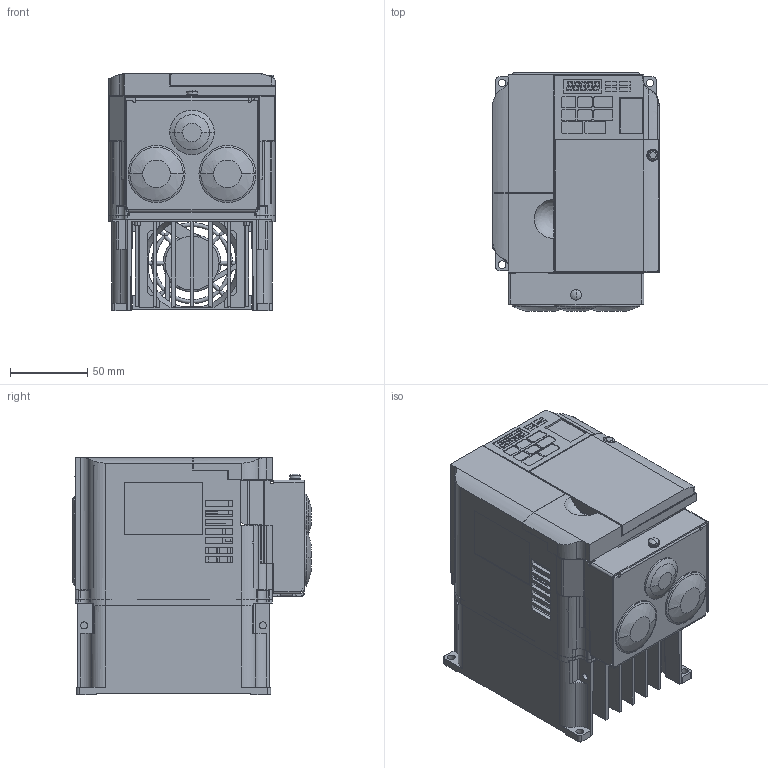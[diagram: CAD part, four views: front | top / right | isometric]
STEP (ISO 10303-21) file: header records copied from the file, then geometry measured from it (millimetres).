
FILE_DESCRIPTION((''),'2;1');
FILE_NAME('VU4A0005FAA_ASM','2009-08-19T',('jeffm'),(''),'PRO/ENGINEER BY PARAMETRIC TECHNOLOGY CORPORATION, 2007390','PRO/ENGINEER BY PARAMETRIC TECHNOLOGY CORPORATION, 2007390','');
FILE_SCHEMA(('CONFIG_CONTROL_DESIGN'));
Products named in the file (11): VU4A0005FAA_BASE; VU4A0005FAA_COVER1; VU4A0005FAA_COVER2; VU4A0005FAA_COVER3; VU4A0005FAA_COVER4; VU4A0005FAA_COVER5; VU4A0005FAA_COVER6; VU4A0005FAA_COVER7; VU4A0005FAA_GROMMET1; VU4A0005FAA_GROMMET2; VU4A0005FAA_ASM
Assembly tree (11 placements, depth 2):
  VU4A0005FAA_ASM
    VU4A0005FAA_BASE
    VU4A0005FAA_COVER1
    VU4A0005FAA_COVER2
    VU4A0005FAA_COVER3
    VU4A0005FAA_COVER4
    VU4A0005FAA_COVER5
    VU4A0005FAA_COVER6
    VU4A0005FAA_COVER7
    VU4A0005FAA_GROMMET1
    VU4A0005FAA_GROMMET2  x2
Bounding box: 108 x 154.9 x 154.35 mm (x, y, z)
Volume: 575717.9 mm3; surface area: 438306.1 mm2
Topology: 11 solids, 11 shells, 5031 faces, 13795 edges, 8966 vertices
Faces by surface type: plane 3887, cylinder 866, extrusion 105, torus 72, cone 59, sphere 40, bspline 2
Entity records: 159829 total; most frequent: CARTESIAN_POINT 31430, ORIENTED_EDGE 27460, DIRECTION 25167, EDGE_CURVE 13730, VECTOR 11093, LINE 10988, VERTEX_POINT 8948, AXIS2_PLACEMENT_3D 7037
